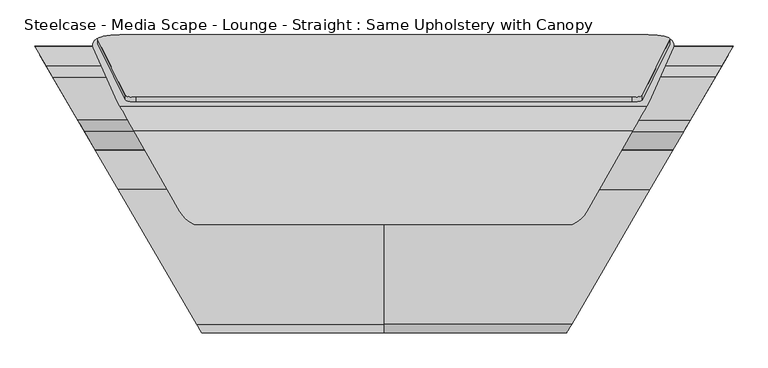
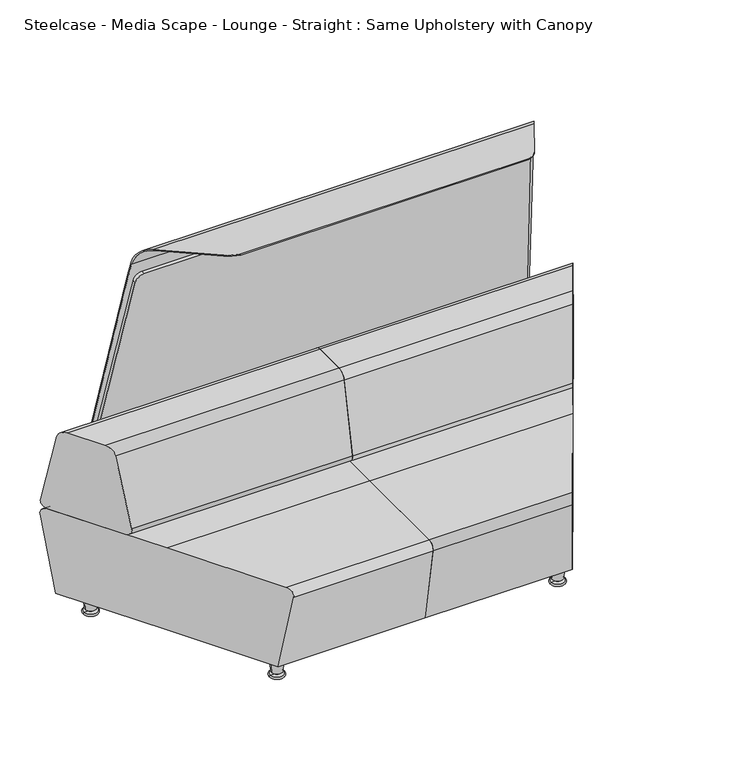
"""IFC4 building model written with IfcOpenShell, lengths in millimetres: furniture geometry, Steelcase - Media Scape - Lounge - Straight : Same Upholstery with Canopy."""

from ifc_helpers import new_model, si_unit, point, frame, frame_2d, origin, place, context, project, spatial, polyline, circle_curve, ellipse_curve, trimmed, segment, composite_curve, outline, extrude, source, transform, mapped, element, save
from ifc_brep_helpers import plane_surface, cylinder_surface, revolved_surface, advanced_brep


def steelcase_media_scape_lounge_straight_same_upholstery_with_4bab1c11(model_context):
    return source(origin(), model_context, "Body", "SolidModel", [
        extrude(outline(composite_curve([segment(polyline([(-1415.6185057, 0.0), (23.7511862, 0.0)]), True, "CONTINUOUS"), segment(trimmed(circle_curve(frame_2d((23.7511862, -31.75)), 31.75), [point((23.7511862, 0.0))], [point((55.3473815, -28.6286315))], False, "CARTESIAN"), True, "CONTINUOUS"), segment(polyline([(55.3473815, -28.6286315), (135.1417459, -836.3507541)]), True, "CONTINUOUS"), segment(trimmed(circle_curve(frame_2d((71.9493552, -842.5934909)), 63.5), [point((135.1417459, -836.3507541))], [point((71.9493552, -906.0934908))], False, "CARTESIAN"), True, "CONTINUOUS"), segment(polyline([(71.9493552, -906.0934908), (-1463.8166748, -906.0934908)]), True, "CONTINUOUS"), segment(trimmed(circle_curve(frame_2d((-1463.8166748, -842.5934909)), 63.5), [point((-1463.8166748, -906.0934908))], [point((-1527.0090654, -836.3507541))], False, "CARTESIAN"), True, "CONTINUOUS"), segment(polyline([(-1527.0090654, -836.3507541), (-1447.2147011, -28.6286315)]), True, "CONTINUOUS"), segment(trimmed(circle_curve(frame_2d((-1415.6185057, -31.75)), 31.75), [point((-1447.2147011, -28.6286315))], [point((-1415.6185057, 0.0))], False, "CARTESIAN"), True, "CONTINUOUS")], self_intersect=False)), frame((-166.9698071, 655.0019123, 1344.801262), z_axis=(0.0, 0.9796723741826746, 0.20060418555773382), x_axis=(-1.0, 0.0, 0.0)), (0.0, 0.0, 1.0), 13.7320107),
        advanced_brep(
        [(1076.5280427, 315.862875, 1570.0120121), (-21.7753373, 315.862875, 1570.0120121), (-19.3514145, 314.8894993, 1567.0162697), (1074.1041199, 314.8894993, 1567.0162697), (-64.0738464, 353.3851692, 1554.9229177), (-193.5709962, 581.5044703, 1483.2596108), (1248.3237015, 581.5044703, 1483.2596108), (1118.8265517, 353.3851692, 1554.9229177), (-236.9611075, 657.939526, 1398.5726582), (1291.7138128, 657.939526, 1398.5726582), (-245.4256965, 672.8505579, 1325.7790448), (-315.0113816, 829.1425656, 562.7828877), (-308.6715155, 853.1887441, 445.3927408), (1363.4242208, 853.1887441, 445.3927408), (1369.7640869, 829.1425656, 562.7828877), (1300.1784018, 672.8505579, 1325.7790448), (-304.9480444, 855.3584553, 445.837184), (-302.7530382, 856.2990758, 446.0298606), (1357.5057435, 856.2990758, 446.0298606), (1359.7007498, 855.3584553, 445.837184), (-304.9480444, 855.3584553, 450.6218411), (-315.0113816, 829.1425656, 578.6042206), (-245.4256965, 672.8505579, 1341.6003778), (-237.9951573, 659.7610852, 1405.5013892), (1292.7478626, 659.7610852, 1405.5013892), (1300.1784018, 672.8505579, 1341.6003778), (1369.7640869, 829.1425656, 578.6042206), (1359.7007498, 855.3584553, 450.6218411), (-197.6081664, 588.6162597, 1484.3269805), (1252.3608718, 588.6162597, 1484.3269805), (1118.8265517, 353.3851692, 1558.2244445), (-64.0738464, 353.3851692, 1558.2244445)],
        [
            (0, 1),
            (1, 2, ellipse_curve(frame((12.0540789, 396.6009308, 1818.4981974), z_axis=(0.0, -0.9510565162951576, 0.3090169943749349), x_axis=(0.0, -0.30901699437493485, -0.9510565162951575)), 283.281906, 87.5389231)),
            (2, 3),
            (3, 0, ellipse_curve(frame((1042.6986264, 396.6009308, 1818.4981974), z_axis=(0.0, -0.9510565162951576, 0.3090169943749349), x_axis=(0.0, -0.30901699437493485, -0.9510565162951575)), 283.281906, 87.5389231)),
            (2, 4, ellipse_curve(frame((12.0540789, 396.6009308, 1541.3467565), z_axis=(0.0, -0.2997073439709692, -0.9540311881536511), x_axis=(0.0, 0.9540311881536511, -0.29970734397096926)), 91.7568778, 87.5389231)),
            (4, 5),
            (5, 6),
            (6, 7),
            (7, 3, ellipse_curve(frame((1042.6986264, 396.6009308, 1541.3467565), z_axis=(0.0, -0.2997073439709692, -0.9540311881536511), x_axis=(0.0, 0.9540311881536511, -0.29970734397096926)), 91.7568778, 87.5389231)),
            (5, 8, ellipse_curve(frame((-174.445594, 547.8135868, 1376.0144789), z_axis=(-0.8696465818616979, -0.49367481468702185, 0.0), x_axis=(-0.4936748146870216, 0.8696465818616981, 0.0)), 129.2624017, 112.4126058)),
            (8, 9),
            (9, 6, ellipse_curve(frame((1229.1982993, 547.8135868, 1376.0144789), z_axis=(0.869646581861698, -0.49367481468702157, 0.0), x_axis=(-0.4936748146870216, -0.869646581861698, 0.0)), 129.2624017, 112.4126058)),
            (8, 10),
            (10, 11),
            (11, 12, ellipse_curve(frame((-296.8717682, 837.2188418, 523.3556142), z_axis=(0.0, -0.9796582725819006, -0.20067303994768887), x_axis=(0.0, 0.20067303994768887, -0.9796582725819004)), 98.9484134, 19.8562789)),
            (12, 13),
            (13, 14, ellipse_curve(frame((1351.6244735, 837.2188418, 523.3556142), z_axis=(0.0, -0.9796582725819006, -0.20067303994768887), x_axis=(0.0, 0.20067303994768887, -0.9796582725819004)), 98.9484134, 19.8562789)),
            (14, 15),
            (15, 9),
            (12, 16, ellipse_curve(frame((-296.8717682, 837.2188418, 442.1214686), z_axis=(0.0, 0.20067303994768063, -0.9796582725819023), x_axis=(0.0, -0.9796582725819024, -0.2006730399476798)), 20.2685768, 19.8562789)),
            (16, 17, ellipse_curve(frame((-270.3174639, 777.5768979, 429.9044226), z_axis=(0.0, 0.20067303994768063, -0.9796582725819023), x_axis=(0.0, -0.9796582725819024, -0.2006730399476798)), 86.9104226, 85.1425145)),
            (17, 18),
            (18, 19, ellipse_curve(frame((1325.0701692, 777.5768979, 429.9044226), z_axis=(0.0, 0.20067303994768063, -0.9796582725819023), x_axis=(0.0, -0.9796582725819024, -0.2006730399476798)), 86.9104226, 85.1425145)),
            (19, 13, ellipse_curve(frame((1351.6244735, 837.2188418, 442.1214686), z_axis=(0.0, 0.20067303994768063, -0.9796582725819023), x_axis=(0.0, -0.9796582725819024, -0.2006730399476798)), 20.2685768, 19.8562789)),
            (17, 20, ellipse_curve(frame((-270.3174639, 777.5768979, 830.3407419), z_axis=(0.0, 0.9796582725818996, 0.2006730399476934), x_axis=(0.0, 0.20067303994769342, -0.9796582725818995)), 424.2847695, 85.1425145)),
            (20, 21, ellipse_curve(frame((-296.8717682, 837.2188418, 539.1769472), z_axis=(0.0, 0.9796582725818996, 0.2006730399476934), x_axis=(0.0, 0.20067303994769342, -0.9796582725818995)), 98.9484134, 19.8562789)),
            (21, 22),
            (22, 23),
            (23, 24),
            (24, 25),
            (25, 26),
            (26, 27, ellipse_curve(frame((1351.6244735, 837.2188418, 539.1769472), z_axis=(0.0, 0.9796582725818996, 0.2006730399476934), x_axis=(0.0, 0.20067303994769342, -0.9796582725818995)), 98.9484134, 19.8562789)),
            (27, 18, ellipse_curve(frame((1325.0701692, 777.5768979, 830.3407419), z_axis=(0.0, 0.9796582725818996, 0.2006730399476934), x_axis=(0.0, 0.20067303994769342, -0.9796582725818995)), 424.2847695, 85.1425145)),
            (23, 28, ellipse_curve(frame((-179.8064733, 557.2571927, 1384.5045087), z_axis=(0.8696465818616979, 0.49367481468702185, 0.0), x_axis=(0.4936748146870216, -0.8696465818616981, 0.0)), 120.3158803, 104.632294)),
            (28, 29),
            (29, 24, ellipse_curve(frame((1234.5591787, 557.2571927, 1384.5045087), z_axis=(-0.869646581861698, 0.49367481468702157, 0.0), x_axis=(0.4936748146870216, 0.869646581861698, 0.0)), 120.3158803, 104.632294)),
            (0, 30, ellipse_curve(frame((1042.6986264, 396.6009308, 1544.6482834), z_axis=(0.0, 0.29970734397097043, 0.9540311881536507), x_axis=(0.0, 0.9540311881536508, -0.29970734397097)), 91.7568778, 87.5389231)),
            (30, 29),
            (28, 31),
            (31, 1, ellipse_curve(frame((12.0540789, 396.6009308, 1544.6482834), z_axis=(0.0, 0.29970734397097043, 0.9540311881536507), x_axis=(0.0, 0.9540311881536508, -0.29970734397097)), 91.7568778, 87.5389231)),
            (10, 22),
            (21, 11),
            (20, 16),
            (31, 4),
            (15, 25),
            (30, 7),
            (27, 19),
            (26, 14),
        ],
        [
            plane_surface(frame((1420.6196209, 315.862875, 1570.0120121), z_axis=(0.0, -0.9510565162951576, 0.3090169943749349), x_axis=(-1.0, 0.0, 0.0))),
            plane_surface(frame((1420.6196209, 314.8894993, 1567.0162697), z_axis=(0.0, -0.2997073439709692, -0.9540311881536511), x_axis=(-1.0, 0.0, 0.0))),
            revolved_surface(polyline([(-238.25918620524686, 435.40098100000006, 1376.0144789), (1293.0118915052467, 435.40098100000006, 1376.0144789)]), (-365.811857, 547.8135868, 1376.0144789), (-1.0, 0.0, 0.0)),
            plane_surface(frame((1420.6196209, 657.939526, 1398.5726582), z_axis=(0.0, -0.9796582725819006, -0.20067303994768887), x_axis=(-1.0, 0.0, 0.0))),
            plane_surface(frame((1420.6196209, 853.1887441, 445.3927408), z_axis=(0.0, 0.20067303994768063, -0.9796582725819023), x_axis=(-1.0, 0.0, 0.0))),
            plane_surface(frame((1420.6196209, 856.2990758, 446.0298606), z_axis=(0.0, 0.9796582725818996, 0.2006730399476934), x_axis=(-1.0, 0.0, 0.0))),
            cylinder_surface(frame((-365.811857, 557.2571927, 1384.5045087), z_axis=(1.0, 0.0, 0.0), x_axis=(0.0, -1.0, 0.0)), 104.632294),
            plane_surface(frame((1420.6196209, 588.6162597, 1484.3269805), z_axis=(0.0, 0.29970734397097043, 0.9540311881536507), x_axis=(-1.0, 0.0, 0.0))),
            plane_surface(frame((-245.4256965, 672.8505579, 1835.1143061), z_axis=(-0.9135454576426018, -0.40673664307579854, 0.0), x_axis=(0.0, 0.0, -1.0))),
            cylinder_surface(frame((-296.8717682, 837.2188418, 445.3927408), z_axis=(0.0, 0.0, -1.0), x_axis=(1.0, 0.0, 0.0)), 19.8562789),
            cylinder_surface(frame((-270.3174639, 777.5768979, 445.3927408), z_axis=(0.0, 0.0, -1.0), x_axis=(1.0, 0.0, 0.0)), 85.1425145),
            cylinder_surface(frame((12.0540789, 396.6009308, 445.3927408), z_axis=(0.0, 0.0, -1.0), x_axis=(1.0, 0.0, 0.0)), 87.5389231),
            plane_surface(frame((-64.0738464, 353.3851692, 1835.1143061), z_axis=(-0.8696465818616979, -0.49367481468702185, 0.0), x_axis=(0.0, 0.0, -1.0))),
            plane_surface(frame((1300.1784018, 672.8505579, 1835.1143061), z_axis=(0.869646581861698, -0.49367481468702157, 0.0), x_axis=(0.0, 0.0, -1.0))),
            cylinder_surface(frame((1042.6986264, 396.6009308, 0.0), z_axis=(0.0, 0.0, -1.0), x_axis=(-1.0, 0.0, 0.0)), 87.5389231),
            cylinder_surface(frame((1325.0701692, 777.5768979, 0.0), z_axis=(0.0, 0.0, -1.0), x_axis=(-1.0, 0.0, 0.0)), 85.1425145),
            cylinder_surface(frame((1351.6244735, 837.2188418, 0.0), z_axis=(0.0, 0.0, -1.0), x_axis=(-1.0, 0.0, 0.0)), 19.8562789),
            plane_surface(frame((1369.7640869, 829.1425656, 1835.1143061), z_axis=(0.9135454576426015, -0.40673664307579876, 0.0), x_axis=(0.0, 0.0, -1.0))),
        ],
        [
            (0, [[1, 2, 3, 4]]),
            (1, [[-3, 5, 6, 7, 8, 9]]),
            (2, [[-7, 10, 11, 12]]),
            (3, [[-11, 13, 14, 15, 16, 17, 18, 19]]),
            (4, [[-16, 20, 21, 22, 23, 24]]),
            (5, [[-22, 25, 26, 27, 28, 29, 30, 31, 32, 33]]),
            (6, [[-29, 34, 35, 36]]),
            (7, [[-1, 37, 38, -35, 39, 40]]),
            (8, [[41, -27, 42, -14]]),
            (9, [[-42, -26, 43, -20, -15]]),
            (10, [[-43, -25, -21]]),
            (11, [[44, -5, -2, -40]]),
            (12, [[-41, -13, -10, -6, -44, -39, -34, -28]]),
            (13, [[45, -30, -36, -38, 46, -8, -12, -19]]),
            (14, [[-46, -37, -4, -9]]),
            (15, [[47, -23, -33]]),
            (16, [[-47, -32, 48, -17, -24]]),
            (17, [[-45, -18, -48, -31]]),
        ],
    ),
        extrude(outline(composite_curve([segment(polyline([(-1415.6185057, 0.0), (23.7511862, 0.0)]), True, "CONTINUOUS"), segment(trimmed(circle_curve(frame_2d((23.7511862, -31.75)), 31.75), [point((23.7511862, 0.0))], [point((55.3473815, -28.6286315))], False, "CARTESIAN"), True, "CONTINUOUS"), segment(polyline([(55.3473815, -28.6286315), (135.1417459, -836.3507541)]), True, "CONTINUOUS"), segment(trimmed(circle_curve(frame_2d((71.9493552, -842.5934909)), 63.5), [point((135.1417459, -836.3507541))], [point((71.9493552, -906.0934908))], False, "CARTESIAN"), True, "CONTINUOUS"), segment(polyline([(71.9493552, -906.0934908), (-1463.8166748, -906.0934908)]), True, "CONTINUOUS"), segment(trimmed(circle_curve(frame_2d((-1463.8166748, -842.5934909)), 63.5), [point((-1463.8166748, -906.0934908))], [point((-1527.0090654, -836.3507541))], False, "CARTESIAN"), True, "CONTINUOUS"), segment(polyline([(-1527.0090654, -836.3507541), (-1447.2147011, -28.6286315)]), True, "CONTINUOUS"), segment(trimmed(circle_curve(frame_2d((-1415.6185057, -31.75)), 31.75), [point((-1447.2147011, -28.6286315))], [point((-1415.6185057, 0.0))], False, "CARTESIAN"), True, "CONTINUOUS")], self_intersect=False)), frame((-166.9698071, 671.5649733, 1348.1940367), z_axis=(0.0, 0.9796723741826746, 0.20060418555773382), x_axis=(-1.0, 0.0, 0.0)), (0.0, 0.0, 1.0), 13.7320107),
        advanced_brep(
        [(-432.9507329, 744.618392, 735.1171206), (-452.3869175, 778.0460766, 707.6422134), (-483.7023664, 831.9045354, 434.7626426), (-469.2133128, 806.9852663, 404.4443065), (-323.688364, 556.7014693, 404.4443065), (-309.1993104, 531.7822003, 434.7626426), (-340.5147593, 585.640659, 707.6422134), (-359.950944, 619.0683436, 735.1171206), (528.9638527, 744.618392, 735.1171206), (528.9638527, 619.0683436, 735.1171206), (528.9638527, 585.640659, 707.6422134), (528.9638527, 531.7822003, 434.7626426), (528.9638527, 556.7014693, 404.4443065), (528.9638527, 806.9852663, 404.4443065), (528.9638527, 831.9045354, 434.7626426), (528.9638527, 778.0460766, 707.6422134)],
        [
            (0, 1, ellipse_curve(frame((-432.9507329, 744.618392, 701.0445646), z_axis=(-0.8644905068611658, -0.5026491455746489, 0.0), x_axis=(-0.5026491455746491, 0.8644905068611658, 0.0)), 39.413453, 34.0725559)),
            (1, 2),
            (2, 3, ellipse_curve(frame((-469.2133128, 806.9852663, 429.8443065), z_axis=(-0.8644905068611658, -0.5026491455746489, 0.0), x_axis=(-0.5026491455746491, 0.8644905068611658, 0.0)), 29.3814678, 25.4)),
            (3, 4),
            (4, 5, ellipse_curve(frame((-323.688364, 556.7014693, 429.8443065), z_axis=(-0.8644905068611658, -0.5026491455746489, 0.0), x_axis=(-0.502649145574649, 0.8644905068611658, 0.0)), 29.3814678, 25.4)),
            (5, 6),
            (6, 7, ellipse_curve(frame((-359.950944, 619.0683436, 701.0445646), z_axis=(-0.8644905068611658, -0.5026491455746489, 0.0), x_axis=(-0.502649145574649, 0.8644905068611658, 0.0)), 39.413453, 34.0725559)),
            (7, 0),
            (8, 9),
            (9, 10, circle_curve(frame((528.9638527, 619.0683436, 701.0445646), z_axis=(1.0, 0.0, 0.0), x_axis=(0.0, -1.0, 0.0)), 34.0725559)),
            (10, 11),
            (11, 12, circle_curve(frame((528.9638527, 556.7014693, 429.8443065), z_axis=(1.0, 0.0, 0.0), x_axis=(0.0, -1.0, 0.0)), 25.4)),
            (12, 13),
            (13, 14, circle_curve(frame((528.9638527, 806.9852663, 429.8443065), z_axis=(1.0, 0.0, 0.0), x_axis=(0.0, 1.0, 0.0)), 25.4)),
            (14, 15),
            (15, 8, circle_curve(frame((528.9638527, 744.618392, 701.0445646), z_axis=(1.0, 0.0, 0.0), x_axis=(0.0, 1.0, 0.0)), 34.0725559)),
            (15, 1),
            (0, 8),
            (14, 2),
            (13, 3),
            (12, 4),
            (11, 5),
            (10, 6),
            (9, 7),
        ],
        [
            plane_surface(frame((22.6450752, -38.9465548, 744.9721396), z_axis=(-0.8644905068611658, -0.5026491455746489, 0.0), x_axis=(0.0, 0.0, -1.0))),
            plane_surface(frame((528.9638527, 778.690948, 701.0445646), z_axis=(1.0, 0.0, 0.0), x_axis=(0.0, 0.0, 1.0))),
            cylinder_surface(frame((528.9638527, 744.618392, 701.0445646), z_axis=(-1.0, 0.0, 0.0), x_axis=(0.0, 1.0, 0.0)), 34.0725559),
            plane_surface(frame((-497.7585178, 778.0460766, 707.6422134), z_axis=(0.0, 0.9810735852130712, 0.19363527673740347), x_axis=(1.0, 0.0, 0.0))),
            cylinder_surface(frame((528.9638527, 806.9852663, 429.8443065), z_axis=(-1.0, 0.0, 0.0), x_axis=(0.0, 1.0, 0.0)), 25.4),
            plane_surface(frame((-497.7585178, 806.9852663, 404.4443065), z_axis=(0.0, 0.0, -1.0), x_axis=(1.0, 0.0, 0.0))),
            cylinder_surface(frame((528.9638527, 556.7014693, 429.8443065), z_axis=(-1.0, 0.0, 0.0), x_axis=(0.0, -1.0, 0.0)), 25.4),
            plane_surface(frame((-497.7585178, 531.7822003, 434.7626426), z_axis=(0.0, -0.9810735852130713, 0.1936352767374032), x_axis=(1.0, 0.0, 0.0))),
            cylinder_surface(frame((528.9638527, 619.0683436, 701.0445646), z_axis=(-1.0, 0.0, 0.0), x_axis=(0.0, -1.0, 0.0)), 34.0725559),
            plane_surface(frame((-497.7585178, 619.0683436, 735.1171206), z_axis=(0.0, 0.0, 1.0), x_axis=(1.0, 0.0, 0.0))),
        ],
        [
            (0, [[1, 2, 3, 4, 5, 6, 7, 8]]),
            (1, [[9, 10, 11, 12, 13, 14, 15, 16]]),
            (2, [[-16, 17, -1, 18]]),
            (3, [[-15, 19, -2, -17]]),
            (4, [[-14, 20, -3, -19]]),
            (5, [[-13, 21, -4, -20]]),
            (6, [[-12, 22, -5, -21]]),
            (7, [[-11, 23, -6, -22]]),
            (8, [[-10, 24, -7, -23]]),
            (9, [[-9, -18, -8, -24]]),
        ],
    ),
        advanced_brep(
        [(528.9638527, 416.9525328, 404.4443065), (528.9638527, 25.4465658, 404.4443065), (528.9638527, 0.4050887, 374.7917281), (528.9638527, 51.3770305, 74.6414242), (528.9638527, 416.9525328, 74.6414242), (528.9638527, 782.5280351, 74.6414242), (528.9638527, 833.4999769, 374.7917281), (528.9638527, 808.4584998, 404.4443065), (-242.4327771, 416.9525328, 404.4443065), (-14.7956449, 25.4465658, 404.4443065), (-0.2355347, 0.4050887, 374.7917281), (-29.8726479, 51.3770305, 74.6414242), (-242.4327771, 416.9525328, 74.6414242), (-454.9929064, 782.5280351, 74.6414242), (-484.6300196, 833.4999769, 374.7917281), (-470.0699093, 808.4584998, 404.4443065)],
        [
            (0, 1),
            (1, 2, circle_curve(frame((528.9638527, 25.4465658, 379.0443065), z_axis=(1.0, 0.0, 0.0), x_axis=(0.0, -1.0, 0.0)), 25.4)),
            (2, 3),
            (3, 4),
            (4, 5),
            (5, 6),
            (6, 7, circle_curve(frame((528.9638527, 808.4584998, 379.0443065), z_axis=(1.0, 0.0, 0.0), x_axis=(0.0, 1.0, 0.0)), 25.4)),
            (7, 0),
            (0, 8),
            (8, 9),
            (9, 1),
            (9, 10, ellipse_curve(frame((-14.7956449, 25.4465658, 379.0443065), z_axis=(0.8644905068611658, 0.5026491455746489, 0.0), x_axis=(0.502649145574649, -0.8644905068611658, 0.0)), 29.3814678, 25.4)),
            (10, 2),
            (10, 11),
            (11, 3),
            (11, 12),
            (12, 4),
            (12, 13),
            (13, 5),
            (13, 14),
            (14, 6),
            (14, 15, ellipse_curve(frame((-470.0699093, 808.4584998, 379.0443065), z_axis=(0.8644905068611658, 0.5026491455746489, 0.0), x_axis=(0.502649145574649, -0.8644905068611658, 0.0)), 29.3814678, 25.4)),
            (15, 7),
            (15, 8),
        ],
        [
            plane_surface(frame((528.9638527, -57.5722485, 404.4443065), z_axis=(1.0, 0.0, 0.0), x_axis=(0.0, -1.0, 0.0))),
            plane_surface(frame((528.9638527, 416.9525328, 404.4443065), z_axis=(0.0, 0.0, 1.0), x_axis=(-1.0, 0.0, 0.0))),
            cylinder_surface(frame((-497.7585178, 25.4465658, 379.0443065), z_axis=(1.0, 0.0, 0.0), x_axis=(0.0, -1.0, 0.0)), 25.4),
            plane_surface(frame((528.9638527, 0.4050887, 374.7917281), z_axis=(0.0, -0.9858849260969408, -0.16742434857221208), x_axis=(-1.0, 0.0, 0.0))),
            plane_surface(frame((528.9638527, 51.3770305, 74.6414242), z_axis=(0.0, 0.0, -1.0), x_axis=(-1.0, 0.0, 0.0))),
            plane_surface(frame((528.9638527, 416.9525328, 74.6414242), z_axis=(0.0, 0.0, -1.0), x_axis=(-1.0, 0.0, 0.0))),
            plane_surface(frame((528.9638527, 782.5280351, 74.6414242), z_axis=(0.0, 0.9858849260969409, -0.1674243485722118), x_axis=(-1.0, 0.0, 0.0))),
            cylinder_surface(frame((-497.7585178, 808.4584998, 379.0443065), z_axis=(1.0, 0.0, 0.0), x_axis=(0.0, 1.0, 0.0)), 25.4),
            plane_surface(frame((528.9638527, 808.4584998, 404.4443065), z_axis=(0.0, 0.0, 1.0), x_axis=(-1.0, 0.0, 0.0))),
            plane_surface(frame((22.6450752, -38.9465548, 744.9721396), z_axis=(-0.8644905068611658, -0.5026491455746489, 0.0), x_axis=(0.0, 0.0, -1.0))),
        ],
        [
            (0, [[1, 2, 3, 4, 5, 6, 7, 8]]),
            (1, [[-1, 9, 10, 11]]),
            (2, [[-2, -11, 12, 13]]),
            (3, [[-3, -13, 14, 15]]),
            (4, [[-4, -15, 16, 17]]),
            (5, [[-5, -17, 18, 19]]),
            (6, [[-6, -19, 20, 21]]),
            (7, [[-7, -21, 22, 23]]),
            (8, [[-8, -23, 24, -9]]),
            (9, [[-10, -24, -22, -20, -18, -16, -14, -12]]),
        ],
    ),
        advanced_brep(
        [(1528.798605, 808.4584998, 404.4443065), (1301.6333208, 416.9525328, 404.4443065), (1074.4680366, 25.4465658, 404.4443065), (1059.9381066, 0.4050887, 374.7917281), (1089.5137878, 51.3770305, 74.6414242), (1301.6333208, 416.9525328, 74.6414242), (1513.7528538, 782.5280351, 74.6414242), (1543.328535, 833.4999769, 374.7917281), (528.9638527, 416.9525328, 404.4443065), (528.9638527, 808.4584998, 404.4443065), (528.9638527, 833.4999769, 374.7917281), (528.9638527, 782.5280351, 74.6414242), (528.9638527, 416.9525328, 74.6414242), (528.9638527, 51.3770305, 74.6414242), (528.9638527, 0.4050887, 374.7917281), (528.9638527, 25.4465658, 404.4443065)],
        [
            (0, 1),
            (1, 2),
            (2, 3, ellipse_curve(frame((1074.4680366, 25.4465658, 379.0443065), z_axis=(0.8649431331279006, -0.5018698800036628, 0.0), x_axis=(-0.5018698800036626, -0.8649431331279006, 0.0)), 29.3660924, 25.4)),
            (3, 4),
            (4, 5),
            (5, 6),
            (6, 7),
            (7, 0, ellipse_curve(frame((1528.798605, 808.4584998, 379.0443065), z_axis=(0.8649431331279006, -0.5018698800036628, 0.0), x_axis=(-0.5018698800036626, -0.8649431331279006, 0.0)), 29.3660924, 25.4)),
            (8, 9),
            (9, 10, circle_curve(frame((528.9638527, 808.4584998, 379.0443065), z_axis=(-1.0, 0.0, 0.0), x_axis=(0.0, 1.0, 0.0)), 25.4)),
            (10, 11),
            (11, 12),
            (12, 13),
            (13, 14),
            (14, 15, circle_curve(frame((528.9638527, 25.4465658, 379.0443065), z_axis=(-1.0, 0.0, 0.0), x_axis=(0.0, -1.0, 0.0)), 25.4)),
            (15, 8),
            (8, 1),
            (0, 9),
            (7, 10),
            (6, 11),
            (5, 12),
            (4, 13),
            (3, 14),
            (2, 15),
        ],
        [
            plane_surface(frame((1544.0895768, 834.8115876, 744.9721396), z_axis=(0.8649431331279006, -0.5018698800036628, 0.0), x_axis=(0.0, 0.0, -1.0))),
            plane_surface(frame((528.9638527, 891.4773142, 404.4443065), z_axis=(-1.0, 0.0, 0.0), x_axis=(0.0, 1.0, 0.0))),
            plane_surface(frame((528.9638527, 416.9525328, 404.4443065), z_axis=(0.0, 0.0, 1.0), x_axis=(1.0, 0.0, 0.0))),
            cylinder_surface(frame((1555.6862231, 808.4584998, 379.0443065), z_axis=(-1.0, 0.0, 0.0), x_axis=(0.0, 1.0, 0.0)), 25.4),
            plane_surface(frame((528.9638527, 833.4999769, 374.7917281), z_axis=(0.0, 0.9858849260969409, -0.1674243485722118), x_axis=(1.0, 0.0, 0.0))),
            plane_surface(frame((528.9638527, 782.5280351, 74.6414242), z_axis=(0.0, 0.0, -1.0), x_axis=(1.0, 0.0, 0.0))),
            plane_surface(frame((528.9638527, 416.9525328, 74.6414242), z_axis=(0.0, 0.0, -1.0), x_axis=(1.0, 0.0, 0.0))),
            plane_surface(frame((528.9638527, 51.3770305, 74.6414242), z_axis=(0.0, -0.9858849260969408, -0.16742434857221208), x_axis=(1.0, 0.0, 0.0))),
            cylinder_surface(frame((1555.6862231, 25.4465658, 379.0443065), z_axis=(-1.0, 0.0, 0.0), x_axis=(0.0, -1.0, 0.0)), 25.4),
            plane_surface(frame((528.9638527, 25.4465658, 404.4443065), z_axis=(0.0, 0.0, 1.0), x_axis=(1.0, 0.0, 0.0))),
        ],
        [
            (0, [[1, 2, 3, 4, 5, 6, 7, 8]]),
            (1, [[9, 10, 11, 12, 13, 14, 15, 16]]),
            (2, [[-9, 17, -1, 18]]),
            (3, [[-10, -18, -8, 19]]),
            (4, [[-11, -19, -7, 20]]),
            (5, [[-12, -20, -6, 21]]),
            (6, [[-13, -21, -5, 22]]),
            (7, [[-14, -22, -4, 23]]),
            (8, [[-15, -23, -3, 24]]),
            (9, [[-16, -24, -2, -17]]),
        ],
    ),
        advanced_brep(
        [(528.9638527, 744.618392, 735.1171206), (528.9638527, 778.0460766, 707.6422134), (528.9638527, 831.9045354, 434.7626426), (528.9638527, 806.9852663, 404.4443065), (528.9638527, 556.7014693, 404.4443065), (528.9638527, 531.7822003, 434.7626426), (528.9638527, 585.640659, 707.6422134), (528.9638527, 619.0683436, 735.1171206), (1418.9078951, 619.0683436, 735.1171206), (1491.7563695, 744.618392, 735.1171206), (1399.5119979, 585.640659, 707.6422134), (1368.26146, 531.7822003, 434.7626426), (1382.7204806, 556.7014693, 404.4443065), (1527.9437841, 806.9852663, 404.4443065), (1542.4028047, 831.9045354, 434.7626426), (1511.1522667, 778.0460766, 707.6422134)],
        [
            (0, 1, circle_curve(frame((528.9638527, 744.618392, 701.0445646), z_axis=(-1.0, 0.0, 0.0), x_axis=(0.0, 1.0, 0.0)), 34.0725559)),
            (1, 2),
            (2, 3, circle_curve(frame((528.9638527, 806.9852663, 429.8443065), z_axis=(-1.0, 0.0, 0.0), x_axis=(0.0, 1.0, 0.0)), 25.4)),
            (3, 4),
            (4, 5, circle_curve(frame((528.9638527, 556.7014693, 429.8443065), z_axis=(-1.0, 0.0, 0.0), x_axis=(0.0, -1.0, 0.0)), 25.4)),
            (5, 6),
            (6, 7, circle_curve(frame((528.9638527, 619.0683436, 701.0445646), z_axis=(-1.0, 0.0, 0.0), x_axis=(0.0, -1.0, 0.0)), 34.0725559)),
            (7, 0),
            (7, 8),
            (8, 9),
            (9, 0),
            (6, 10),
            (10, 8, ellipse_curve(frame((1418.9078951, 619.0683436, 701.0445646), z_axis=(-0.8649431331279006, 0.5018698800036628, 0.0), x_axis=(0.5018698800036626, 0.8649431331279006, 0.0)), 39.3928279, 34.0725559)),
            (5, 11),
            (11, 10),
            (4, 12),
            (12, 11, ellipse_curve(frame((1382.7204806, 556.7014693, 429.8443065), z_axis=(-0.8649431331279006, 0.5018698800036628, 0.0), x_axis=(0.5018698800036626, 0.8649431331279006, 0.0)), 29.3660924, 25.4)),
            (3, 13),
            (13, 12),
            (2, 14),
            (14, 13, ellipse_curve(frame((1527.9437841, 806.9852663, 429.8443065), z_axis=(-0.8649431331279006, 0.5018698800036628, 0.0), x_axis=(0.5018698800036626, 0.8649431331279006, 0.0)), 29.3660924, 25.4)),
            (1, 15),
            (15, 14),
            (9, 15, ellipse_curve(frame((1491.7563695, 744.618392, 701.0445646), z_axis=(-0.8649431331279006, 0.5018698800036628, 0.0), x_axis=(0.5018698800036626, 0.8649431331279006, 0.0)), 39.3928279, 34.0725559)),
        ],
        [
            plane_surface(frame((528.9638527, 567.2050656, 735.1171206), z_axis=(-1.0, 0.0, 0.0), x_axis=(0.0, 1.0, 0.0))),
            plane_surface(frame((1555.6862231, 744.618392, 735.1171206), z_axis=(0.0, 0.0, 1.0), x_axis=(-1.0, 0.0, 0.0))),
            cylinder_surface(frame((528.9638527, 619.0683436, 701.0445646), z_axis=(1.0, 0.0, 0.0), x_axis=(0.0, -1.0, 0.0)), 34.0725559),
            plane_surface(frame((1555.6862231, 585.640659, 707.6422134), z_axis=(0.0, -0.9810735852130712, 0.19363527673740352), x_axis=(-1.0, 0.0, 0.0))),
            cylinder_surface(frame((528.9638527, 556.7014693, 429.8443065), z_axis=(1.0, 0.0, 0.0), x_axis=(0.0, -1.0, 0.0)), 25.4),
            plane_surface(frame((1555.6862231, 556.7014693, 404.4443065), z_axis=(0.0, 0.0, -1.0), x_axis=(-1.0, 0.0, 0.0))),
            cylinder_surface(frame((528.9638527, 806.9852663, 429.8443065), z_axis=(1.0, 0.0, 0.0), x_axis=(0.0, 1.0, 0.0)), 25.4),
            plane_surface(frame((1555.6862231, 831.9045354, 434.7626426), z_axis=(0.0, 0.9810735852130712, 0.19363527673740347), x_axis=(-1.0, 0.0, 0.0))),
            cylinder_surface(frame((528.9638527, 744.618392, 701.0445646), z_axis=(1.0, 0.0, 0.0), x_axis=(0.0, 1.0, 0.0)), 34.0725559),
            plane_surface(frame((1544.0895768, 834.8115876, 744.9721396), z_axis=(0.8649431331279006, -0.5018698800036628, 0.0), x_axis=(0.0, 0.0, -1.0))),
        ],
        [
            (0, [[1, 2, 3, 4, 5, 6, 7, 8]]),
            (1, [[-8, 9, 10, 11]]),
            (2, [[-7, 12, 13, -9]]),
            (3, [[-6, 14, 15, -12]]),
            (4, [[-5, 16, 17, -14]]),
            (5, [[-4, 18, 19, -16]]),
            (6, [[-3, 20, 21, -18]]),
            (7, [[-2, 22, 23, -20]]),
            (8, [[-1, -11, 24, -22]]),
            (9, [[-10, -13, -15, -17, -19, -21, -23, -24]]),
        ],
    ),
        advanced_brep(
        [(1415.6593492, 727.0057274, 74.1561731), (1439.4462694, 727.0057274, 74.1561731), (1391.8724291, 727.0057274, 74.1561731), (1389.605707, 727.0057274, 0.0), (1441.7129915, 727.0057274, 0.0), (1415.6593492, 727.0057274, 0.0), (1389.605707, 727.0057274, 6.3788302), (1441.7129915, 727.0057274, 6.3788302), (1406.1343492, 727.0057274, 6.3788302), (1425.1843492, 727.0057274, 6.3788302), (1406.1343492, 727.0057274, 17.057519), (1425.1843492, 727.0057274, 17.057519), (1394.704233, 727.0057274, 17.057519), (1436.6144655, 727.0057274, 17.057519)],
        [
            (0, 1),
            (1, 2, circle_curve(frame((1415.6593492, 727.0057274, 74.1561731), z_axis=(0.0, 0.0, 1.0), x_axis=(1.0, 0.0, 0.0)), 23.7869202)),
            (2, 0),
            (2, 1, circle_curve(frame((1415.6593492, 727.0057274, 74.1561731), z_axis=(0.0, 0.0, 1.0), x_axis=(1.0, 0.0, 0.0)), 23.7869202)),
            (3, 4, circle_curve(frame((1415.6593492, 727.0057274, 0.0), z_axis=(0.0, 0.0, -1.0), x_axis=(1.0, 0.0, 0.0)), 26.0536423)),
            (4, 5),
            (5, 3),
            (4, 3, circle_curve(frame((1415.6593492, 727.0057274, 0.0), z_axis=(0.0, 0.0, -1.0), x_axis=(1.0, 0.0, 0.0)), 26.0536423)),
            (3, 6, circle_curve(frame((1389.605707, 727.0057274, 3.1894151), z_axis=(0.0, 1.0, 0.0), x_axis=(-1.0, 0.0, 0.0)), 3.1894151)),
            (6, 7, circle_curve(frame((1415.6593492, 727.0057274, 6.3788302), z_axis=(0.0, 0.0, -1.0), x_axis=(1.0, 0.0, 0.0)), 26.0536423)),
            (7, 4, circle_curve(frame((1441.7129915, 727.0057274, 3.1894151), z_axis=(0.0, 1.0, 0.0), x_axis=(1.0, 0.0, 0.0)), 3.1894151)),
            (7, 6, circle_curve(frame((1415.6593492, 727.0057274, 6.3788302), z_axis=(0.0, 0.0, -1.0), x_axis=(1.0, 0.0, 0.0)), 26.0536423)),
            (6, 8),
            (8, 9, circle_curve(frame((1415.6593492, 727.0057274, 6.3788302), z_axis=(0.0, 0.0, -1.0), x_axis=(1.0, 0.0, 0.0)), 9.525)),
            (9, 7),
            (9, 8, circle_curve(frame((1415.6593492, 727.0057274, 6.3788302), z_axis=(0.0, 0.0, -1.0), x_axis=(1.0, 0.0, 0.0)), 9.525)),
            (8, 10),
            (10, 11, circle_curve(frame((1415.6593492, 727.0057274, 17.057519), z_axis=(0.0, 0.0, -1.0), x_axis=(1.0, 0.0, 0.0)), 9.525)),
            (11, 9),
            (11, 10, circle_curve(frame((1415.6593492, 727.0057274, 17.057519), z_axis=(0.0, 0.0, -1.0), x_axis=(1.0, 0.0, 0.0)), 9.525)),
            (10, 12),
            (12, 13, circle_curve(frame((1415.6593492, 727.0057274, 17.057519), z_axis=(0.0, 0.0, -1.0), x_axis=(1.0, 0.0, 0.0)), 20.9551163)),
            (13, 11),
            (13, 12, circle_curve(frame((1415.6593492, 727.0057274, 17.057519), z_axis=(0.0, 0.0, -1.0), x_axis=(1.0, 0.0, 0.0)), 20.9551163)),
            (1, 13),
            (12, 2),
        ],
        [
            plane_surface(frame((1415.6593492, 727.0057274, 74.1561731), z_axis=(0.0, 0.0, 1.0), x_axis=(1.0, 0.0, 0.0))),
            plane_surface(frame((1415.6593492, 727.0057274, 0.0), z_axis=(0.0, 0.0, -1.0), x_axis=(1.0, 0.0, 0.0))),
            revolved_surface(trimmed(ellipse_curve(frame((1441.7129915, 727.0057274, 3.1894151), z_axis=(0.0, -1.0, 0.0), x_axis=(1.0, 0.0, 0.0)), 3.1894151, 3.1894151), [point((1441.7129915, 727.0057274, 0.0))], [point((1441.7129915, 727.0057274, 6.3788302))], True, "CARTESIAN"), (1415.6593492, 727.0057274, 61.4561731), (0.0, 0.0, 1.0)),
            plane_surface(frame((1415.6593492, 727.0057274, 6.3788302), z_axis=(0.0, 0.0, 1.0), x_axis=(1.0, 0.0, 0.0))),
            cylinder_surface(frame((1415.6593492, 727.0057274, 61.4561731), z_axis=(0.0, 0.0, 1.0), x_axis=(1.0, 0.0, 0.0)), 9.525),
            plane_surface(frame((1415.6593492, 727.0057274, 17.057519), z_axis=(0.0, 0.0, -1.0), x_axis=(1.0, 0.0, 0.0))),
            revolved_surface(polyline([(1436.6144655, 727.0057274, 17.057519), (1439.4462694, 727.0057274, 74.1561731)]), (1415.6593492, 727.0057274, 61.4561731), (0.0, 0.0, 1.0)),
        ],
        [
            (0, [[1, 2, 3]]),
            (0, [[-1, -3, 4]]),
            (1, [[5, 6, 7]]),
            (1, [[-6, 8, -7]]),
            (2, [[-5, 9, 10, 11]]),
            (2, [[-8, -11, 12, -9]]),
            (3, [[-10, 13, 14, 15]]),
            (3, [[-12, -15, 16, -13]]),
            (4, [[-14, 17, 18, 19]]),
            (4, [[-16, -19, 20, -17]]),
            (5, [[-18, 21, 22, 23]]),
            (5, [[-20, -23, 24, -21]]),
            (6, [[-2, 25, -22, 26]]),
            (6, [[-4, -26, -24, -25]]),
        ],
    ),
        advanced_brep(
        [(1064.6697268, 106.8143681, 74.1561731), (1088.4566469, 106.8143681, 74.1561731), (1040.8828066, 106.8143681, 74.1561731), (1038.6160845, 106.8143681, 0.0), (1090.723369, 106.8143681, 0.0), (1064.6697268, 106.8143681, 0.0), (1038.6160845, 106.8143681, 6.3788302), (1090.723369, 106.8143681, 6.3788302), (1055.1447268, 106.8143681, 6.3788302), (1074.1947268, 106.8143681, 6.3788302), (1055.1447268, 106.8143681, 17.057519), (1074.1947268, 106.8143681, 17.057519), (1043.7146105, 106.8143681, 17.057519), (1085.624843, 106.8143681, 17.057519)],
        [
            (0, 1),
            (1, 2, circle_curve(frame((1064.6697268, 106.8143681, 74.1561731), z_axis=(0.0, 0.0, 1.0), x_axis=(1.0, 0.0, 0.0)), 23.7869202)),
            (2, 0),
            (2, 1, circle_curve(frame((1064.6697268, 106.8143681, 74.1561731), z_axis=(0.0, 0.0, 1.0), x_axis=(1.0, 0.0, 0.0)), 23.7869202)),
            (3, 4, circle_curve(frame((1064.6697268, 106.8143681, 0.0), z_axis=(0.0, 0.0, -1.0), x_axis=(1.0, 0.0, 0.0)), 26.0536423)),
            (4, 5),
            (5, 3),
            (4, 3, circle_curve(frame((1064.6697268, 106.8143681, 0.0), z_axis=(0.0, 0.0, -1.0), x_axis=(1.0, 0.0, 0.0)), 26.0536423)),
            (3, 6, circle_curve(frame((1038.6160845, 106.8143681, 3.1894151), z_axis=(0.0, 1.0, 0.0), x_axis=(-1.0, 0.0, 0.0)), 3.1894151)),
            (6, 7, circle_curve(frame((1064.6697268, 106.8143681, 6.3788302), z_axis=(0.0, 0.0, -1.0), x_axis=(1.0, 0.0, 0.0)), 26.0536423)),
            (7, 4, circle_curve(frame((1090.723369, 106.8143681, 3.1894151), z_axis=(0.0, 1.0, 0.0), x_axis=(1.0, 0.0, 0.0)), 3.1894151)),
            (7, 6, circle_curve(frame((1064.6697268, 106.8143681, 6.3788302), z_axis=(0.0, 0.0, -1.0), x_axis=(1.0, 0.0, 0.0)), 26.0536423)),
            (6, 8),
            (8, 9, circle_curve(frame((1064.6697268, 106.8143681, 6.3788302), z_axis=(0.0, 0.0, -1.0), x_axis=(1.0, 0.0, 0.0)), 9.525)),
            (9, 7),
            (9, 8, circle_curve(frame((1064.6697268, 106.8143681, 6.3788302), z_axis=(0.0, 0.0, -1.0), x_axis=(1.0, 0.0, 0.0)), 9.525)),
            (8, 10),
            (10, 11, circle_curve(frame((1064.6697268, 106.8143681, 17.057519), z_axis=(0.0, 0.0, -1.0), x_axis=(1.0, 0.0, 0.0)), 9.525)),
            (11, 9),
            (11, 10, circle_curve(frame((1064.6697268, 106.8143681, 17.057519), z_axis=(0.0, 0.0, -1.0), x_axis=(1.0, 0.0, 0.0)), 9.525)),
            (10, 12),
            (12, 13, circle_curve(frame((1064.6697268, 106.8143681, 17.057519), z_axis=(0.0, 0.0, -1.0), x_axis=(1.0, 0.0, 0.0)), 20.9551163)),
            (13, 11),
            (13, 12, circle_curve(frame((1064.6697268, 106.8143681, 17.057519), z_axis=(0.0, 0.0, -1.0), x_axis=(1.0, 0.0, 0.0)), 20.9551163)),
            (1, 13),
            (12, 2),
        ],
        [
            plane_surface(frame((1064.6697268, 106.8143681, 74.1561731), z_axis=(0.0, 0.0, 1.0), x_axis=(1.0, 0.0, 0.0))),
            plane_surface(frame((1064.6697268, 106.8143681, 0.0), z_axis=(0.0, 0.0, -1.0), x_axis=(1.0, 0.0, 0.0))),
            revolved_surface(trimmed(ellipse_curve(frame((1090.723369, 106.8143681, 3.1894151), z_axis=(0.0, -1.0, 0.0), x_axis=(1.0, 0.0, 0.0)), 3.1894151, 3.1894151), [point((1090.723369, 106.8143681, 0.0))], [point((1090.723369, 106.8143681, 6.3788302))], True, "CARTESIAN"), (1064.6697268, 106.8143681, 61.4561731), (0.0, 0.0, 1.0)),
            plane_surface(frame((1064.6697268, 106.8143681, 6.3788302), z_axis=(0.0, 0.0, 1.0), x_axis=(1.0, 0.0, 0.0))),
            cylinder_surface(frame((1064.6697268, 106.8143681, 61.4561731), z_axis=(0.0, 0.0, 1.0), x_axis=(1.0, 0.0, 0.0)), 9.525),
            plane_surface(frame((1064.6697268, 106.8143681, 17.057519), z_axis=(0.0, 0.0, -1.0), x_axis=(1.0, 0.0, 0.0))),
            revolved_surface(polyline([(1085.624843, 106.8143681, 17.057519), (1088.4566469, 106.8143681, 74.1561731)]), (1064.6697268, 106.8143681, 61.4561731), (0.0, 0.0, 1.0)),
        ],
        [
            (0, [[1, 2, 3]]),
            (0, [[-1, -3, 4]]),
            (1, [[5, 6, 7]]),
            (1, [[-6, 8, -7]]),
            (2, [[-5, 9, 10, 11]]),
            (2, [[-8, -11, 12, -9]]),
            (3, [[-10, 13, 14, 15]]),
            (3, [[-12, -15, 16, -13]]),
            (4, [[-14, 17, 18, 19]]),
            (4, [[-16, -19, 20, -17]]),
            (5, [[-18, 21, 22, 23]]),
            (5, [[-20, -23, 24, -21]]),
            (6, [[-2, 25, -22, 26]]),
            (6, [[-4, -26, -24, -25]]),
        ],
    ),
        advanced_brep(
        [(-3.0976561, 106.8143681, 74.1561731), (20.6892641, 106.8143681, 74.1561731), (-26.8845762, 106.8143681, 74.1561731), (-29.1512983, 106.8143681, 0.0), (22.9559862, 106.8143681, 0.0), (-3.0976561, 106.8143681, 0.0), (-29.1512983, 106.8143681, 6.3788302), (22.9559862, 106.8143681, 6.3788302), (-12.6226561, 106.8143681, 6.3788302), (6.4273439, 106.8143681, 6.3788302), (-12.6226561, 106.8143681, 17.057519), (6.4273439, 106.8143681, 17.057519), (-24.0527723, 106.8143681, 17.057519), (17.8574602, 106.8143681, 17.057519)],
        [
            (0, 1),
            (1, 2, circle_curve(frame((-3.0976561, 106.8143681, 74.1561731), z_axis=(0.0, 0.0, 1.0), x_axis=(1.0, 0.0, 0.0)), 23.7869202)),
            (2, 0),
            (2, 1, circle_curve(frame((-3.0976561, 106.8143681, 74.1561731), z_axis=(0.0, 0.0, 1.0), x_axis=(1.0, 0.0, 0.0)), 23.7869202)),
            (3, 4, circle_curve(frame((-3.0976561, 106.8143681, 0.0), z_axis=(0.0, 0.0, -1.0), x_axis=(1.0, 0.0, 0.0)), 26.0536423)),
            (4, 5),
            (5, 3),
            (4, 3, circle_curve(frame((-3.0976561, 106.8143681, 0.0), z_axis=(0.0, 0.0, -1.0), x_axis=(1.0, 0.0, 0.0)), 26.0536423)),
            (3, 6, circle_curve(frame((-29.1512983, 106.8143681, 3.1894151), z_axis=(0.0, 1.0, 0.0), x_axis=(-1.0, 0.0, 0.0)), 3.1894151)),
            (6, 7, circle_curve(frame((-3.0976561, 106.8143681, 6.3788302), z_axis=(0.0, 0.0, -1.0), x_axis=(1.0, 0.0, 0.0)), 26.0536423)),
            (7, 4, circle_curve(frame((22.9559862, 106.8143681, 3.1894151), z_axis=(0.0, 1.0, 0.0), x_axis=(1.0, 0.0, 0.0)), 3.1894151)),
            (7, 6, circle_curve(frame((-3.0976561, 106.8143681, 6.3788302), z_axis=(0.0, 0.0, -1.0), x_axis=(1.0, 0.0, 0.0)), 26.0536423)),
            (6, 8),
            (8, 9, circle_curve(frame((-3.0976561, 106.8143681, 6.3788302), z_axis=(0.0, 0.0, -1.0), x_axis=(1.0, 0.0, 0.0)), 9.525)),
            (9, 7),
            (9, 8, circle_curve(frame((-3.0976561, 106.8143681, 6.3788302), z_axis=(0.0, 0.0, -1.0), x_axis=(1.0, 0.0, 0.0)), 9.525)),
            (8, 10),
            (10, 11, circle_curve(frame((-3.0976561, 106.8143681, 17.057519), z_axis=(0.0, 0.0, -1.0), x_axis=(1.0, 0.0, 0.0)), 9.525)),
            (11, 9),
            (11, 10, circle_curve(frame((-3.0976561, 106.8143681, 17.057519), z_axis=(0.0, 0.0, -1.0), x_axis=(1.0, 0.0, 0.0)), 9.525)),
            (10, 12),
            (12, 13, circle_curve(frame((-3.0976561, 106.8143681, 17.057519), z_axis=(0.0, 0.0, -1.0), x_axis=(1.0, 0.0, 0.0)), 20.9551163)),
            (13, 11),
            (13, 12, circle_curve(frame((-3.0976561, 106.8143681, 17.057519), z_axis=(0.0, 0.0, -1.0), x_axis=(1.0, 0.0, 0.0)), 20.9551163)),
            (1, 13),
            (12, 2),
        ],
        [
            plane_surface(frame((-3.0976561, 106.8143681, 74.1561731), z_axis=(0.0, 0.0, 1.0), x_axis=(1.0, 0.0, 0.0))),
            plane_surface(frame((-3.0976561, 106.8143681, 0.0), z_axis=(0.0, 0.0, -1.0), x_axis=(1.0, 0.0, 0.0))),
            revolved_surface(trimmed(ellipse_curve(frame((22.9559862, 106.8143681, 3.1894151), z_axis=(0.0, -1.0, 0.0), x_axis=(1.0, 0.0, 0.0)), 3.1894151, 3.1894151), [point((22.9559862, 106.8143681, 0.0))], [point((22.9559862, 106.8143681, 6.3788302))], True, "CARTESIAN"), (-3.0976561, 106.8143681, 61.4561731), (0.0, 0.0, 1.0)),
            plane_surface(frame((-3.0976561, 106.8143681, 6.3788302), z_axis=(0.0, 0.0, 1.0), x_axis=(1.0, 0.0, 0.0))),
            cylinder_surface(frame((-3.0976561, 106.8143681, 61.4561731), z_axis=(0.0, 0.0, 1.0), x_axis=(1.0, 0.0, 0.0)), 9.525),
            plane_surface(frame((-3.0976561, 106.8143681, 17.057519), z_axis=(0.0, 0.0, -1.0), x_axis=(1.0, 0.0, 0.0))),
            revolved_surface(polyline([(17.8574602, 106.8143681, 17.057519), (20.6892641, 106.8143681, 74.1561731)]), (-3.0976561, 106.8143681, 61.4561731), (0.0, 0.0, 1.0)),
        ],
        [
            (0, [[1, 2, 3]]),
            (0, [[-1, -3, 4]]),
            (1, [[5, 6, 7]]),
            (1, [[-6, 8, -7]]),
            (2, [[-5, 9, 10, 11]]),
            (2, [[-8, -11, 12, -9]]),
            (3, [[-10, 13, 14, 15]]),
            (3, [[-12, -15, 16, -13]]),
            (4, [[-14, 17, 18, 19]]),
            (4, [[-16, -19, 20, -17]]),
            (5, [[-18, 21, 22, 23]]),
            (5, [[-20, -23, 24, -21]]),
            (6, [[-2, 25, -22, 26]]),
            (6, [[-4, -26, -24, -25]]),
        ],
    ),
        advanced_brep(
        [(-353.6250975, 727.0057274, 74.1561731), (-329.8381773, 727.0057274, 74.1561731), (-377.4120176, 727.0057274, 74.1561731), (-379.6787397, 727.0057274, 0.0), (-327.5714552, 727.0057274, 0.0), (-353.6250975, 727.0057274, 0.0), (-379.6787397, 727.0057274, 6.3788302), (-327.5714552, 727.0057274, 6.3788302), (-363.1500975, 727.0057274, 6.3788302), (-344.1000975, 727.0057274, 6.3788302), (-363.1500975, 727.0057274, 17.057519), (-344.1000975, 727.0057274, 17.057519), (-374.5802137, 727.0057274, 17.057519), (-332.6699812, 727.0057274, 17.057519)],
        [
            (0, 1),
            (1, 2, circle_curve(frame((-353.6250975, 727.0057274, 74.1561731), z_axis=(0.0, 0.0, 1.0), x_axis=(1.0, 0.0, 0.0)), 23.7869202)),
            (2, 0),
            (2, 1, circle_curve(frame((-353.6250975, 727.0057274, 74.1561731), z_axis=(0.0, 0.0, 1.0), x_axis=(1.0, 0.0, 0.0)), 23.7869202)),
            (3, 4, circle_curve(frame((-353.6250975, 727.0057274, 0.0), z_axis=(0.0, 0.0, -1.0), x_axis=(1.0, 0.0, 0.0)), 26.0536423)),
            (4, 5),
            (5, 3),
            (4, 3, circle_curve(frame((-353.6250975, 727.0057274, 0.0), z_axis=(0.0, 0.0, -1.0), x_axis=(1.0, 0.0, 0.0)), 26.0536423)),
            (3, 6, circle_curve(frame((-379.6787397, 727.0057274, 3.1894151), z_axis=(0.0, 1.0, 0.0), x_axis=(-1.0, 0.0, 0.0)), 3.1894151)),
            (6, 7, circle_curve(frame((-353.6250975, 727.0057274, 6.3788302), z_axis=(0.0, 0.0, -1.0), x_axis=(1.0, 0.0, 0.0)), 26.0536423)),
            (7, 4, circle_curve(frame((-327.5714552, 727.0057274, 3.1894151), z_axis=(0.0, 1.0, 0.0), x_axis=(1.0, 0.0, 0.0)), 3.1894151)),
            (7, 6, circle_curve(frame((-353.6250975, 727.0057274, 6.3788302), z_axis=(0.0, 0.0, -1.0), x_axis=(1.0, 0.0, 0.0)), 26.0536423)),
            (6, 8),
            (8, 9, circle_curve(frame((-353.6250975, 727.0057274, 6.3788302), z_axis=(0.0, 0.0, -1.0), x_axis=(1.0, 0.0, 0.0)), 9.525)),
            (9, 7),
            (9, 8, circle_curve(frame((-353.6250975, 727.0057274, 6.3788302), z_axis=(0.0, 0.0, -1.0), x_axis=(1.0, 0.0, 0.0)), 9.525)),
            (8, 10),
            (10, 11, circle_curve(frame((-353.6250975, 727.0057274, 17.057519), z_axis=(0.0, 0.0, -1.0), x_axis=(1.0, 0.0, 0.0)), 9.525)),
            (11, 9),
            (11, 10, circle_curve(frame((-353.6250975, 727.0057274, 17.057519), z_axis=(0.0, 0.0, -1.0), x_axis=(1.0, 0.0, 0.0)), 9.525)),
            (10, 12),
            (12, 13, circle_curve(frame((-353.6250975, 727.0057274, 17.057519), z_axis=(0.0, 0.0, -1.0), x_axis=(1.0, 0.0, 0.0)), 20.9551163)),
            (13, 11),
            (13, 12, circle_curve(frame((-353.6250975, 727.0057274, 17.057519), z_axis=(0.0, 0.0, -1.0), x_axis=(1.0, 0.0, 0.0)), 20.9551163)),
            (1, 13),
            (12, 2),
        ],
        [
            plane_surface(frame((-353.6250975, 727.0057274, 74.1561731), z_axis=(0.0, 0.0, 1.0), x_axis=(1.0, 0.0, 0.0))),
            plane_surface(frame((-353.6250975, 727.0057274, 0.0), z_axis=(0.0, 0.0, -1.0), x_axis=(1.0, 0.0, 0.0))),
            revolved_surface(trimmed(ellipse_curve(frame((-327.5714552, 727.0057274, 3.1894151), z_axis=(0.0, -1.0, 0.0), x_axis=(1.0, 0.0, 0.0)), 3.1894151, 3.1894151), [point((-327.5714552, 727.0057274, 0.0))], [point((-327.5714552, 727.0057274, 6.3788302))], True, "CARTESIAN"), (-353.6250975, 727.0057274, 61.4561731), (0.0, 0.0, 1.0)),
            plane_surface(frame((-353.6250975, 727.0057274, 6.3788302), z_axis=(0.0, 0.0, 1.0), x_axis=(1.0, 0.0, 0.0))),
            cylinder_surface(frame((-353.6250975, 727.0057274, 61.4561731), z_axis=(0.0, 0.0, 1.0), x_axis=(1.0, 0.0, 0.0)), 9.525),
            plane_surface(frame((-353.6250975, 727.0057274, 17.057519), z_axis=(0.0, 0.0, -1.0), x_axis=(1.0, 0.0, 0.0))),
            revolved_surface(polyline([(-332.6699812, 727.0057274, 17.057519), (-329.8381773, 727.0057274, 74.1561731)]), (-353.6250975, 727.0057274, 61.4561731), (0.0, 0.0, 1.0)),
        ],
        [
            (0, [[1, 2, 3]]),
            (0, [[-1, -3, 4]]),
            (1, [[5, 6, 7]]),
            (1, [[-6, 8, -7]]),
            (2, [[-5, 9, 10, 11]]),
            (2, [[-8, -11, 12, -9]]),
            (3, [[-10, 13, 14, 15]]),
            (3, [[-12, -15, 16, -13]]),
            (4, [[-14, 17, 18, 19]]),
            (4, [[-16, -19, 20, -17]]),
            (5, [[-18, 21, 22, 23]]),
            (5, [[-20, -23, 24, -21]]),
            (6, [[-2, 25, -22, 26]]),
            (6, [[-4, -26, -24, -25]]),
        ],
    ),
    ])


if __name__ == "__main__":
    model = new_model("IFC4")
    model_context = context("Model", 3, world=origin())
    ifc_project = project(units=[si_unit("LENGTHUNIT", "METRE", prefix="MILLI")], contexts=[model_context])
    site = spatial("IfcSite", under=ifc_project)
    building = spatial("IfcBuilding", under=site)
    placement = place(None, origin())
    steelcase_media_scape_lounge_straight_same_upholstery_with_shape = steelcase_media_scape_lounge_straight_same_upholstery_with_4bab1c11(model_context)
    element("IfcFurniture", 1, ObjectType="Steelcase - Media Scape - Lounge - Straight : Same Upholstery with Canopy", at=placement, inside=building, context=model_context, shape_type="MappedRepresentation", body=[
        mapped(steelcase_media_scape_lounge_straight_same_upholstery_with_shape, transform((0.0, 0.0, 0.0), x_axis=(1.0, 0.0, 0.0), y_axis=(0.0, 1.0, 0.0), z_axis=(0.0, 0.0, 1.0))),
    ])
    save(model, "model.ifc")
